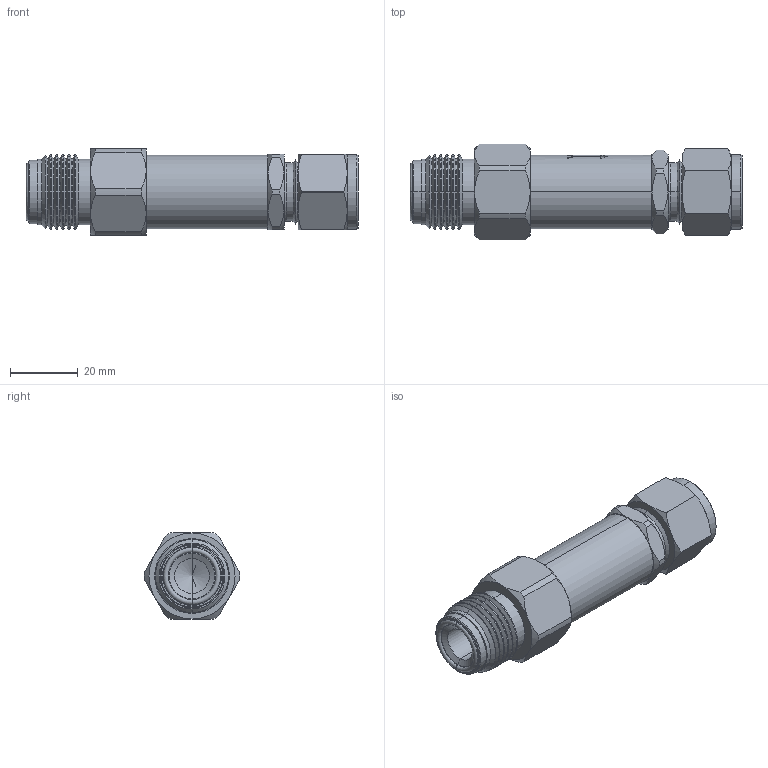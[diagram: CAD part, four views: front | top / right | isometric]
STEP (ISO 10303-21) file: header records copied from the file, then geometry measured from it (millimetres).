
FILE_DESCRIPTION (( 'STEP AP203' ), '1' );
FILE_NAME ('IRV8T-8V-V-10.STEP', '2017-12-11T13:27:19', ( '' ), ( '' ), 'SwSTEP 2.0', 'SolidWorks 2011', '' );
FILE_SCHEMA (( 'CONFIG_CONTROL_DESIGN' ));
Length unit declared in the file: inch
Products named in the file (2): IRV8T-8V-V-10; Part1^IRV8T-8V-V-10
Assembly tree (1 placements, depth 2):
  IRV8T-8V-V-10
    Part1^IRV8T-8V-V-10
Bounding box: 98.01 x 28.31 x 25.4 mm (x, y, z)
Volume: 36499.4 mm3; surface area: 9704.7 mm2
Topology: 1 solids, 1 shells, 178 faces, 396 edges, 229 vertices
Faces by surface type: cone 72, cylinder 59, plane 35, torus 6, bspline 6
Entity records: 5374 total; most frequent: CARTESIAN_POINT 1333, DIRECTION 834, ORIENTED_EDGE 788, EDGE_CURVE 394, AXIS2_PLACEMENT_3D 358, VERTEX_POINT 229, EDGE_LOOP 189, CIRCLE 182
